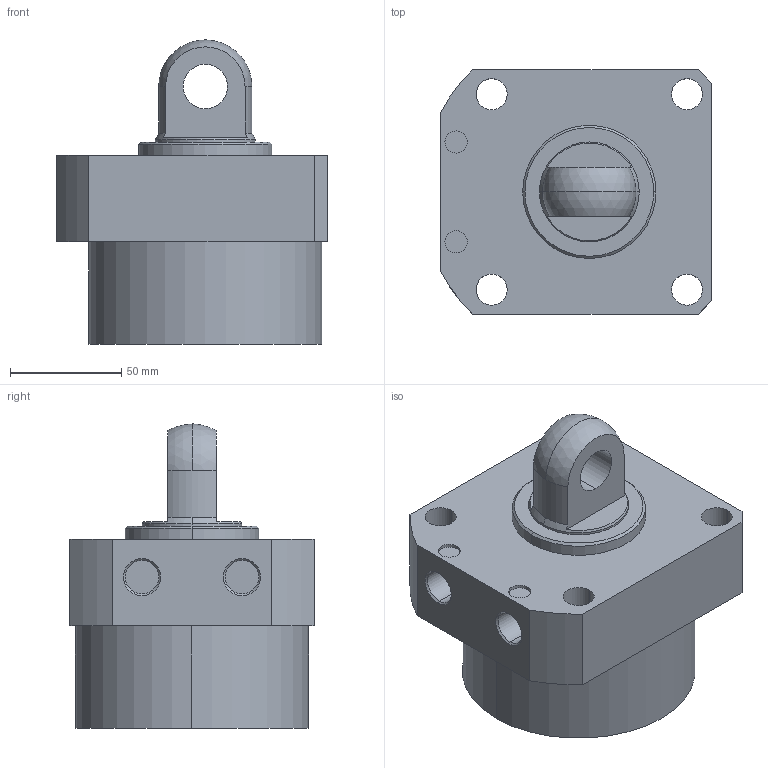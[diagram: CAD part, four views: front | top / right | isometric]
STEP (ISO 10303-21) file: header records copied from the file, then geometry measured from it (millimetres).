
FILE_DESCRIPTION (( 'STEP AP203' ), '1' );
FILE_NAME ('CLLR-105CP-025.STEP', '2019-12-19T02:02:50', ( '' ), ( '' ), 'SwSTEP 2.0', 'SolidWorks 2015', '' );
FILE_SCHEMA (( 'CONFIG_CONTROL_DESIGN' ));
Length unit declared in the file: millimetre
Products named in the file (1): CLLR-105CP-025
Bounding box: 122 x 110 x 137 mm (x, y, z)
Volume: 924516.4 mm3; surface area: 72852.9 mm2
Topology: 1 solids, 1 shells, 57 faces, 135 edges, 87 vertices
Faces by surface type: cylinder 29, plane 18, cone 8, sphere 2
Entity records: 1770 total; most frequent: DIRECTION 319, CARTESIAN_POINT 292, ORIENTED_EDGE 270, EDGE_CURVE 135, AXIS2_PLACEMENT_3D 130, VERTEX_POINT 87, EDGE_LOOP 74, CIRCLE 72
